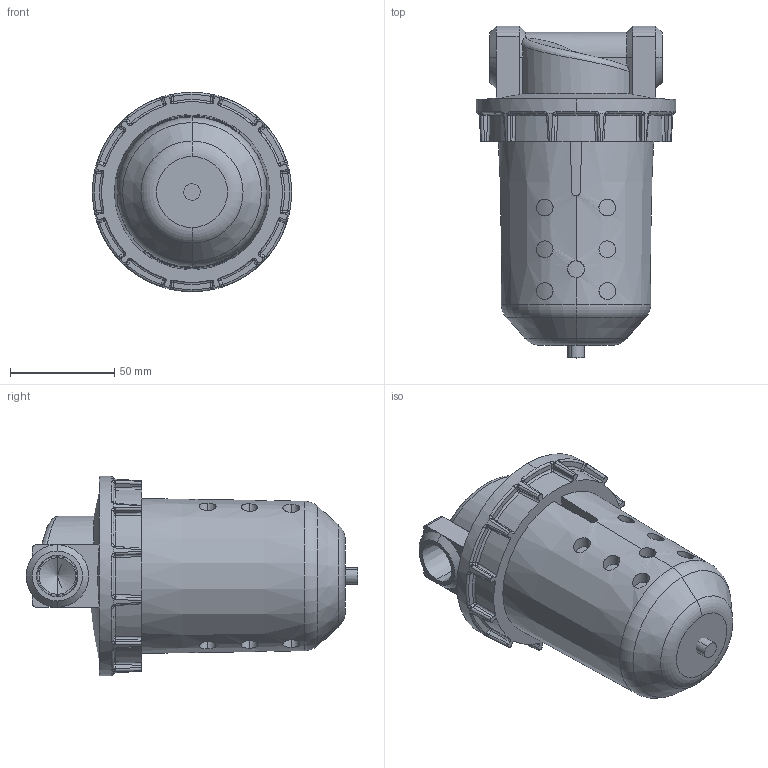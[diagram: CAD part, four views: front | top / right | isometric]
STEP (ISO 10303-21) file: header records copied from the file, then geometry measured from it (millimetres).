
FILE_DESCRIPTION (( 'STEP AP203' ), '1' );
FILE_NAME ('F602-04#YB#.STEP', '2016-01-14T18:02:34', ( '' ), ( '' ), 'SwSTEP 2.0', 'SolidWorks 2014', '' );
FILE_SCHEMA (( 'CONFIG_CONTROL_DESIGN' ));
Length unit declared in the file: millimetre
Products named in the file (4): F602-04-上; F602-04#YB#; F602-04-下; L606-W-06-5
Assembly tree (3 placements, depth 2):
  F602-04#YB#
    L606-W-06-5
    F602-04-上
    F602-04-下
Bounding box: 95.5 x 159 x 95.5 mm (x, y, z)
Volume: 578669.5 mm3; surface area: 62014.9 mm2
Topology: 3 solids, 3 shells, 363 faces, 892 edges, 524 vertices
Faces by surface type: bspline 98, cylinder 84, plane 74, cone 48, sphere 30, torus 29
Entity records: 15486 total; most frequent: CARTESIAN_POINT 7668, ORIENTED_EDGE 1728, DIRECTION 1335, EDGE_CURVE 864, AXIS2_PLACEMENT_3D 571, VERTEX_POINT 524, EDGE_LOOP 380, ADVANCED_FACE 363
